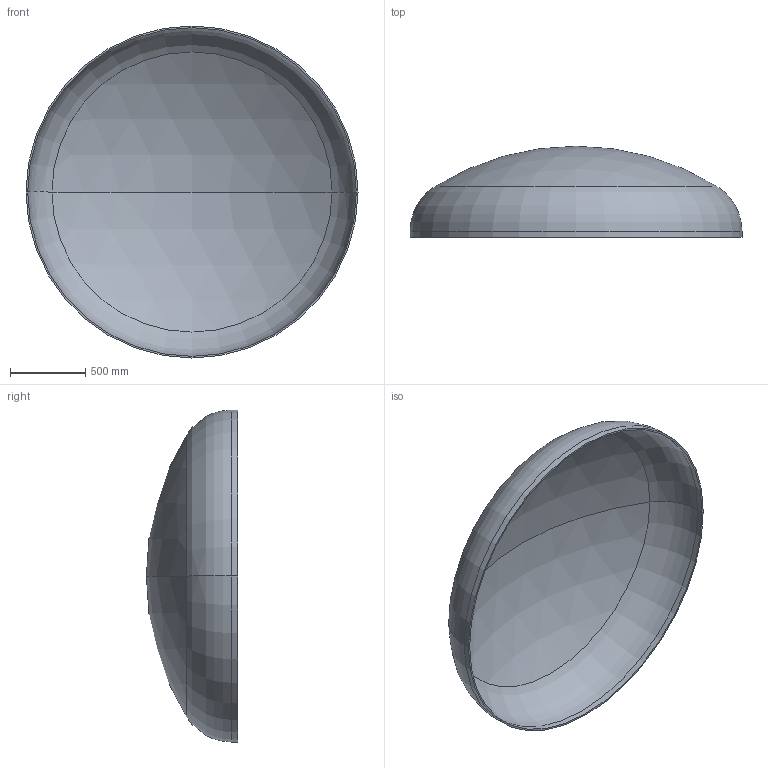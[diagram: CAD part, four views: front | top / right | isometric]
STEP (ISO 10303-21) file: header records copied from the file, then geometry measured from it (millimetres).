
FILE_DESCRIPTION (( 'STEP AP203' ), '1' );
FILE_NAME ('DIN 28013 Korbbogenform_-_Boden DIN 28013 - 2200 x 40 - I - s=11.step', '2016-07-01T14:18:56', ( '' ), ( '' ), 'SwSTEP 2.0', 'SolidWorks 2013', '' );
FILE_SCHEMA (( 'CONFIG_CONTROL_DESIGN' ));
Length unit declared in the file: millimetre
Products named in the file (1): DIN 28013 Korbbogenform_-_Boden DIN 28013 - 2200 x 40 - I - s=11
Bounding box: 2200 x 604.6 x 2200 mm (x, y, z)
Volume: 60598659 mm3; surface area: 11093833.5 mm2
Topology: 1 solids, 1 shells, 13 faces, 24 edges, 14 vertices
Faces by surface type: torus 4, cylinder 4, sphere 4, plane 1
Entity records: 407 total; most frequent: DIRECTION 72, CARTESIAN_POINT 52, ORIENTED_EDGE 48, AXIS2_PLACEMENT_3D 34, EDGE_CURVE 24, CIRCLE 20, EDGE_LOOP 14, VERTEX_POINT 14
